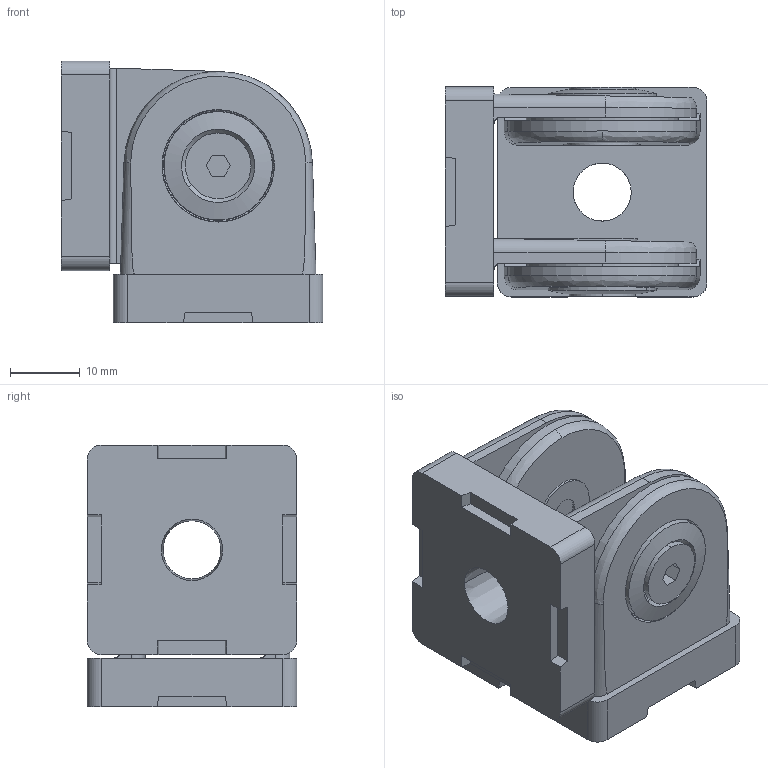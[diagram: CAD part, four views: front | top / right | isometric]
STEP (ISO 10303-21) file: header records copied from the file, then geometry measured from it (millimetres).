
FILE_DESCRIPTION (( 'STEP AP203' ), '1' );
FILE_NAME ('0106G3030.STEP', '2024-03-14T10:39:23', ( 'Windows-Benutzer' ), ( '' ), 'SwSTEP 2.0', 'SolidWorks 2023', '' );
FILE_SCHEMA (( 'CONFIG_CONTROL_DESIGN' ));
Length unit declared in the file: millimetre
Products named in the file (6): 093G30A_part_3; 093G30A_part_5; 0106G3030; 093G30A_part_1; 093G30A_part_2; 093G30A_part_4
Assembly tree (8 placements, depth 2):
  0106G3030
    093G30A_part_1
    093G30A_part_4  x2
    093G30A_part_5  x2
    093G30A_part_3  x2
    093G30A_part_2
Bounding box: 37.5 x 30 x 37.5 mm (x, y, z)
Volume: 20921.9 mm3; surface area: 14151.2 mm2
Topology: 8 solids, 8 shells, 392 faces, 972 edges, 616 vertices
Faces by surface type: plane 142, cylinder 98, bspline 78, cone 74
Entity records: 12095 total; most frequent: CARTESIAN_POINT 4577, ORIENTED_EDGE 1490, DIRECTION 1353, EDGE_CURVE 745, AXIS2_PLACEMENT_3D 507, VERTEX_POINT 474, VECTOR 339, LINE 339
